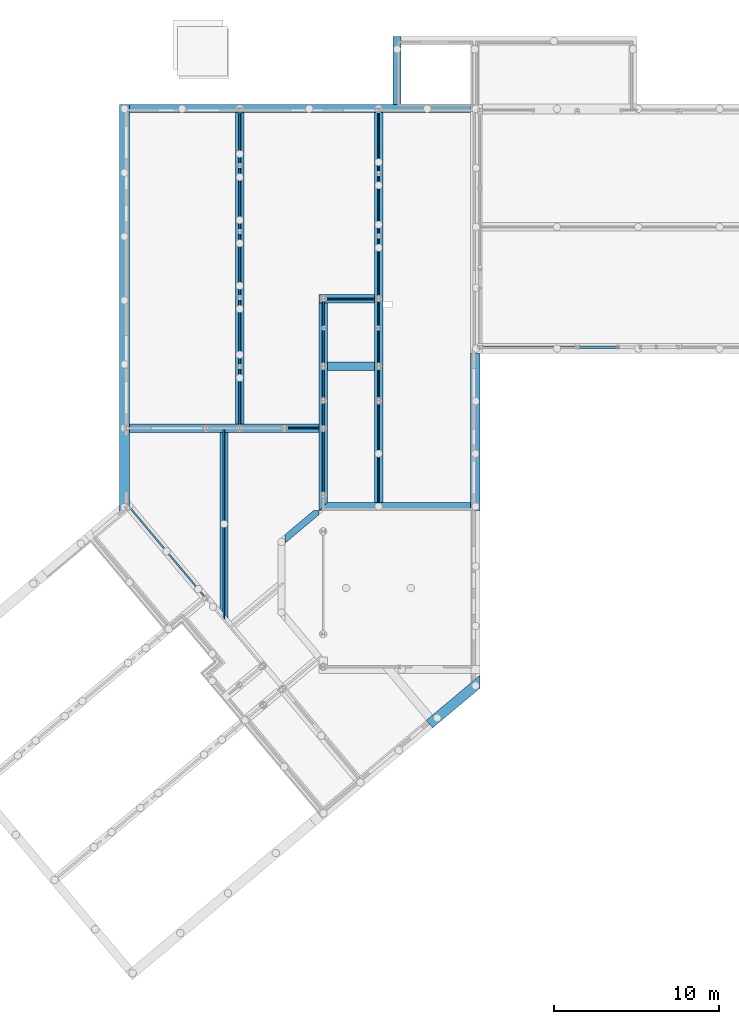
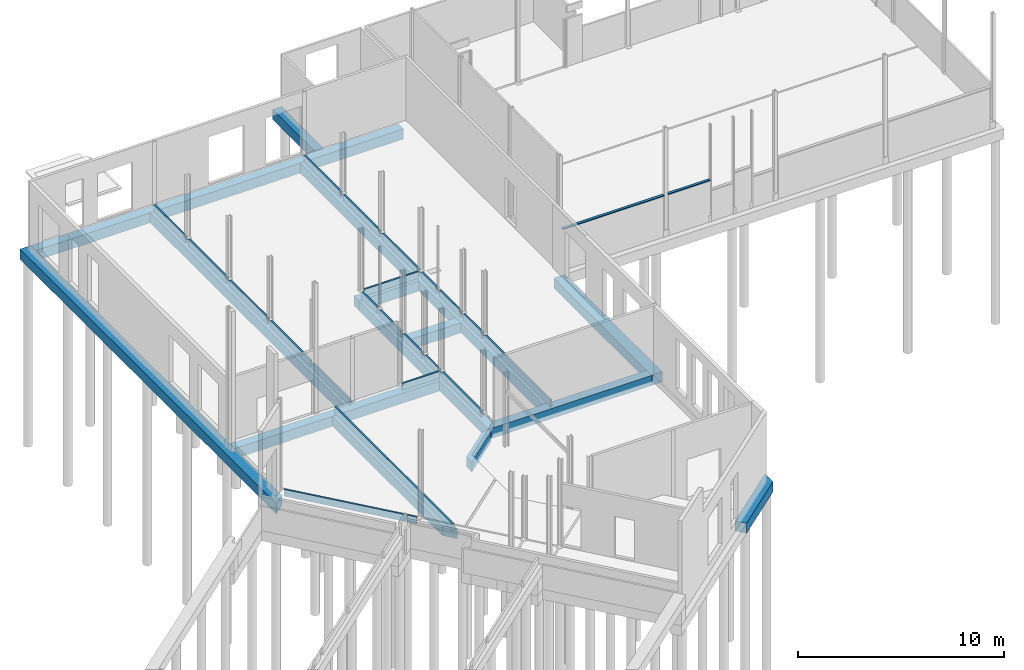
# One storey, part 12 of 18: 37 beams.
"""IFC2X3 building model written with IfcOpenShell, lengths in millimetres."""

from ifc_helpers import new_model, entity, si_unit, converted_unit, derived_unit, direction, frame, frame_2d, origin, origin_2d_with_axis, place, context, subcontext, project, spatial, polyline, circle_curve, parameter, trimmed, segment, composite_curve, rectangle, outline, extrude, clip, halfspace, material, type_object, element, save


model = new_model("IFC2X3")

# Units and contexts
model_context = context("Model", 3, precision=0.01, world=origin(), true_north=direction((6.12303176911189e-17, 1.0)))
body_context = subcontext(model_context, "Body", "Model", "MODEL_VIEW")
ifc_project = project(units=[si_unit("LENGTHUNIT", "METRE", prefix="MILLI"), si_unit("AREAUNIT", "SQUARE_METRE"), si_unit("VOLUMEUNIT", "CUBIC_METRE"), converted_unit("PLANEANGLEUNIT", "DEGREE", entity("IfcRatioMeasure", 0.0174532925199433), si_unit("PLANEANGLEUNIT", "RADIAN"), dimensions=[0, 0, 0, 0, 0, 0, 0]), si_unit("MASSUNIT", "GRAM", prefix="KILO"), derived_unit("MASSDENSITYUNIT", [(si_unit("MASSUNIT", "GRAM", prefix="KILO"), 1), (si_unit("LENGTHUNIT", "METRE"), -3)]), derived_unit("MOMENTOFINERTIAUNIT", [(si_unit("LENGTHUNIT", "METRE"), 4)]), si_unit("TIMEUNIT", "SECOND"), si_unit("FREQUENCYUNIT", "HERTZ"), si_unit("THERMODYNAMICTEMPERATUREUNIT", "DEGREE_CELSIUS"), derived_unit("THERMALTRANSMITTANCEUNIT", [(si_unit("MASSUNIT", "GRAM", prefix="KILO"), 1), (si_unit("THERMODYNAMICTEMPERATUREUNIT", "KELVIN"), -1), (si_unit("TIMEUNIT", "SECOND"), -3)]), derived_unit("VOLUMETRICFLOWRATEUNIT", [(si_unit("LENGTHUNIT", "METRE"), 3), (si_unit("TIMEUNIT", "SECOND"), -1)]), si_unit("ELECTRICCURRENTUNIT", "AMPERE"), si_unit("ELECTRICVOLTAGEUNIT", "VOLT"), si_unit("POWERUNIT", "WATT"), si_unit("FORCEUNIT", "NEWTON", prefix="KILO"), si_unit("ILLUMINANCEUNIT", "LUX"), si_unit("LUMINOUSFLUXUNIT", "LUMEN"), si_unit("LUMINOUSINTENSITYUNIT", "CANDELA"), derived_unit("USERDEFINED", [(si_unit("MASSUNIT", "GRAM", prefix="KILO"), -1), (si_unit("LENGTHUNIT", "METRE"), -2), (si_unit("TIMEUNIT", "SECOND"), 3), (si_unit("LUMINOUSFLUXUNIT", "LUMEN"), 1)]), derived_unit("LINEARVELOCITYUNIT", [(si_unit("LENGTHUNIT", "METRE"), 1), (si_unit("TIMEUNIT", "SECOND"), -1)]), si_unit("PRESSUREUNIT", "PASCAL"), derived_unit("USERDEFINED", [(si_unit("LENGTHUNIT", "METRE"), -2), (si_unit("MASSUNIT", "GRAM", prefix="KILO"), 1), (si_unit("TIMEUNIT", "SECOND"), -2)]), derived_unit("LINEARFORCEUNIT", [(si_unit("MASSUNIT", "GRAM", prefix="KILO"), 1), (si_unit("LENGTHUNIT", "METRE"), 1), (si_unit("TIMEUNIT", "SECOND"), -2), (si_unit("LENGTHUNIT", "METRE"), -1)]), derived_unit("PLANARFORCEUNIT", [(si_unit("MASSUNIT", "GRAM", prefix="KILO"), 1), (si_unit("LENGTHUNIT", "METRE"), 1), (si_unit("TIMEUNIT", "SECOND"), -2), (si_unit("LENGTHUNIT", "METRE"), -2)])], contexts=[model_context])

# Site, building, storey
site_placement = place(None, origin())
site = spatial("IfcSite", under=ifc_project, at=site_placement, Name="Default", CompositionType="ELEMENT")
building_placement = place(site_placement, origin())
building = spatial("IfcBuilding", under=site, at=building_placement, CompositionType="ELEMENT")
storey_placement = place(building_placement, frame((0.0, 0.0, -1085.0)))
storey = spatial("IfcBuildingStorey", under=building, at=storey_placement, Name="-00 fundatie", CompositionType="ELEMENT", Elevation=-1085.0)

# Beams
ifc_material_1 = material(Name="f2_beton ihwg")
beam_type_1 = type_object("IfcBeamType", Name="BERSnl_28_SF_LIB_balk vierkant beton_gen_ISR:balk vierkant_gen_600X600", PredefinedType="JOIST")
beam_1_placement = place(storey_placement, frame((13609.4349765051, 11165.9488747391, 600.0), z_axis=(0.0, 0.0, 1.0), x_axis=(0.0, 1.0, 0.0)))
element("IfcBeam", 1, at=beam_1_placement, inside=storey, type_object=beam_type_1, material=ifc_material_1, Name="BERSnl_28_SF_LIB_balk vierkant beton_gen_ISR:balk vierkant_gen_600X600", ObjectType="BERSnl_28_SF_LIB_balk vierkant beton_gen_ISR:balk vierkant_gen_600X600", context=body_context, shape_type="SweptSolid", body=[
    clip(extrude(rectangle(XDim=600.000000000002, YDim=599.999999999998, at=frame_2d((-4.2632564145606e-13, 0.0), x_axis=(1.0, 0.0))), frame((-277.36405469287, 0.0, -300.0), z_axis=(1.0, 0.0, 0.0), x_axis=(0.0, 0.0, -1.0)), (0.0, 0.0, 1.0), 24877.3640546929), halfspace(frame((-290.135520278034, 315.22043999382, 548.528137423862), z_axis=(-0.76604444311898, -0.642787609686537, 0.0), x_axis=(0.642787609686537, -0.76604444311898, 0.0)), False)),
])
beam_2_placement = place(storey_placement, frame((34813.4270571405, 11692.2966282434, 600.0), z_axis=(0.0, 0.0, 1.0), x_axis=(0.0, 1.0, 0.0)))
element("IfcBeam", 2, at=beam_2_placement, inside=storey, type_object=beam_type_1, material=ifc_material_1, Name="BERSnl_28_SF_LIB_balk vierkant beton_gen_ISR:balk vierkant_gen_600X600", ObjectType="BERSnl_28_SF_LIB_balk vierkant beton_gen_ISR:balk vierkant_gen_600X600", context=body_context, shape_type="SweptSolid", body=[
    extrude(rectangle(XDim=600.000000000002, YDim=599.999999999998, at=frame_2d((-2.55795384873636e-13, 2.1600499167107e-12), x_axis=(1.0, 0.0))), frame((-500.0, 0.0, -300.0), z_axis=(1.0, 0.0, 0.0), x_axis=(0.0, 0.0, -1.0)), (0.0, 0.0, 1.0), 9504.0),
])
beam_3_placement = place(storey_placement, frame((32429.2332137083, -1395.33770940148, 600.0), z_axis=(0.0, 0.0, 1.0), x_axis=(0.76604444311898, 0.642787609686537, 0.0)))
element("IfcBeam", 3, at=beam_3_placement, inside=storey, type_object=beam_type_1, material=ifc_material_1, Name="BERSnl_28_SF_LIB_balk vierkant beton_gen_ISR:balk vierkant_gen_600X600", ObjectType="BERSnl_28_SF_LIB_balk vierkant beton_gen_ISR:balk vierkant_gen_600X600", context=body_context, shape_type="SweptSolid", body=[
    clip(extrude(rectangle(XDim=600.000000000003, YDim=600.000000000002, at=origin_2d_with_axis()), frame((-500.0, 0.0, -300.0), z_axis=(1.0, 0.0, 0.0), x_axis=(0.0, 0.0, -1.0)), (0.0, 0.0, 1.0), 4255.69609855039), halfspace(frame((2968.83099965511, -637.749308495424, -600.0), z_axis=(0.76604444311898, -0.642787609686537, 0.0), x_axis=(0.642787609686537, 0.76604444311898, 0.0)), False)),
])
beam_type_2 = type_object("IfcBeamType", Name="BERSnl_28_SF_LIB_balk vierkant beton_gen_ISR:balk vierkant_gen_500X600", PredefinedType="JOIST")
beam_4_placement = place(storey_placement, frame((13609.4349765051, 35515.9488747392, 600.0)))
element("IfcBeam", 4, at=beam_4_placement, inside=storey, type_object=beam_type_2, material=ifc_material_1, Name="BERSnl_28_SF_LIB_balk vierkant beton_gen_ISR:balk vierkant_gen_500X600", ObjectType="BERSnl_28_SF_LIB_balk vierkant beton_gen_ISR:balk vierkant_gen_500X600", context=body_context, shape_type="SweptSolid", body=[
    extrude(rectangle(XDim=600.000000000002, YDim=499.999999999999, at=frame_2d((-2.8421709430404e-14, 5.84776671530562e-11), x_axis=(1.0, 0.0))), frame((300.0, 0.0, -300.0), z_axis=(1.0, 0.0, 0.0), x_axis=(0.0, 0.0, -1.0)), (0.0, 0.0, 1.0), 20603.9920806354),
])
beam_5_placement = place(storey_placement, frame((20567.4349765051, 16182.2966282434, 600.0), z_axis=(0.0, 0.0, 1.0), x_axis=(0.0, 1.0, 0.0)))
element("IfcBeam", 5, at=beam_5_placement, inside=storey, type_object=beam_type_2, material=ifc_material_1, Name="BERSnl_28_SF_LIB_balk vierkant beton_gen_ISR:balk vierkant_gen_500X600", ObjectType="BERSnl_28_SF_LIB_balk vierkant beton_gen_ISR:balk vierkant_gen_500X600", context=body_context, shape_type="SweptSolid", body=[
    extrude(rectangle(XDim=600.000000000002, YDim=499.999999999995, at=frame_2d((-1.4210854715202e-13, -2.17426077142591e-12), x_axis=(1.0, 0.0))), frame((250.0, 0.0, -300.0), z_axis=(1.0, 0.0, 0.0), x_axis=(0.0, 0.0, -1.0)), (0.0, 0.0, 1.0), 18833.6522464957),
])
beam_6_placement = place(storey_placement, frame((13609.4349765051, 16182.2966282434, 600.0)))
element("IfcBeam", 6, at=beam_6_placement, inside=storey, type_object=beam_type_2, material=ifc_material_1, Name="BERSnl_28_SF_LIB_balk vierkant beton_gen_ISR:balk vierkant_gen_500X600", ObjectType="BERSnl_28_SF_LIB_balk vierkant beton_gen_ISR:balk vierkant_gen_500X600", context=body_context, shape_type="SweptSolid", body=[
    extrude(rectangle(XDim=600.000000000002, YDim=499.999999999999, at=frame_2d((-2.8421709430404e-14, 3.68203245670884e-11), x_axis=(1.0, 0.0))), frame((300.0, 0.0, -300.0), z_axis=(1.0, 0.0, 0.0), x_axis=(0.0, 0.0, -1.0)), (0.0, 0.0, 1.0), 11456.0),
])
beam_7_placement = place(storey_placement, frame((28969.4349765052, 11442.2966282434, 600.0), z_axis=(0.0, 0.0, 1.0), x_axis=(0.0, 1.0, 0.0)))
element("IfcBeam", 7, at=beam_7_placement, inside=storey, type_object=beam_type_2, material=ifc_material_1, Name="BERSnl_28_SF_LIB_balk vierkant beton_gen_ISR:balk vierkant_gen_500X600", ObjectType="BERSnl_28_SF_LIB_balk vierkant beton_gen_ISR:balk vierkant_gen_500X600", context=body_context, shape_type="SweptSolid", body=[
    extrude(rectangle(XDim=600.000000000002, YDim=499.999999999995, at=frame_2d((-4.57589521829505e-12, -2.17426077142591e-12), x_axis=(1.0, 0.0))), frame((250.0, 0.0, -300.0), z_axis=(1.0, 0.0, 0.0), x_axis=(0.0, 0.0, -1.0)), (0.0, 0.0, 1.0), 23573.6522464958),
])
beam_8_placement = place(storey_placement, frame((28969.4349765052, 24002.2966282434, 600.0), z_axis=(0.0, 0.0, 1.0), x_axis=(-1.0, 0.0, 0.0)))
element("IfcBeam", 8, at=beam_8_placement, inside=storey, type_object=beam_type_2, material=ifc_material_1, Name="BERSnl_28_SF_LIB_balk vierkant beton_gen_ISR:balk vierkant_gen_500X600", ObjectType="BERSnl_28_SF_LIB_balk vierkant beton_gen_ISR:balk vierkant_gen_500X600", context=body_context, shape_type="SweptSolid", body=[
    extrude(rectangle(XDim=600.000000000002, YDim=499.999999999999, at=frame_2d((0.0, 1.29887212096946e-11), x_axis=(1.0, 0.0))), frame((250.0, 0.0, -300.0), z_axis=(1.0, 0.0, 0.0), x_axis=(0.0, 0.0, -1.0)), (0.0, 0.0, 1.0), 3354.00000000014),
])
beam_9_placement = place(storey_placement, frame((25615.4349765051, 11692.2966282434, 600.0), z_axis=(0.0, 0.0, 1.0), x_axis=(0.0, 1.0, 0.0)))
element("IfcBeam", 9, at=beam_9_placement, inside=storey, type_object=beam_type_2, material=ifc_material_1, Name="BERSnl_28_SF_LIB_balk vierkant beton_gen_ISR:balk vierkant_gen_500X600", ObjectType="BERSnl_28_SF_LIB_balk vierkant beton_gen_ISR:balk vierkant_gen_500X600", context=body_context, shape_type="SweptSolid", body=[
    clip(extrude(rectangle(XDim=600.000000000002, YDim=499.999999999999, at=frame_2d((1.02318153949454e-12, 0.0), x_axis=(1.0, 0.0))), frame((-500.0, 0.0, -300.0), z_axis=(1.0, 0.0, 0.0), x_axis=(0.0, 0.0, -1.0)), (0.0, 0.0, 1.0), 12560.0), halfspace(frame((0.0, -250.0, 0.0), z_axis=(-0.707106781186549, -0.707106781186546, 0.0), x_axis=(0.707106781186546, -0.707106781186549, 0.0)), False)),
])
beam_10_placement = place(storey_placement, frame((25615.4349765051, 19921.8399254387, 600.0)))
element("IfcBeam", 10, at=beam_10_placement, inside=storey, type_object=beam_type_2, material=ifc_material_1, Name="BERSnl_28_SF_LIB_balk vierkant beton_gen_ISR:balk vierkant_gen_500X600", ObjectType="BERSnl_28_SF_LIB_balk vierkant beton_gen_ISR:balk vierkant_gen_500X600", context=body_context, shape_type="SweptSolid", body=[
    extrude(rectangle(XDim=600.000000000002, YDim=499.999999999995, at=frame_2d((0.0, 2.1600499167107e-12), x_axis=(1.0, 0.0))), frame((250.0, 0.0, -300.0), z_axis=(1.0, 0.0, 0.0), x_axis=(0.0, 0.0, -1.0)), (0.0, 0.0, 1.0), 2854.0000000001),
])
beam_11_placement = place(storey_placement, frame((30085.4349765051, 35515.9488747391, 600.0), z_axis=(0.0, 0.0, 1.0), x_axis=(0.0, 1.0, 0.0)))
element("IfcBeam", 11, at=beam_11_placement, inside=storey, type_object=beam_type_2, material=ifc_material_1, Name="BERSnl_28_SF_LIB_balk vierkant beton_gen_ISR:balk vierkant_gen_500X600", ObjectType="BERSnl_28_SF_LIB_balk vierkant beton_gen_ISR:balk vierkant_gen_500X600", context=body_context, shape_type="SweptSolid", body=[
    extrude(rectangle(XDim=600.000000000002, YDim=499.999999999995, at=frame_2d((1.4210854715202e-13, -2.17426077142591e-12), x_axis=(1.0, 0.0))), frame((250.0, 0.0, -300.0), z_axis=(1.0, 0.0, 0.0), x_axis=(0.0, 0.0, -1.0)), (0.0, 0.0, 1.0), 4100.34775350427),
])
beam_12_placement = place(storey_placement, frame((25865.4349765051, 11442.2966282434, 600.0)))
element("IfcBeam", 12, at=beam_12_placement, inside=storey, type_object=beam_type_2, material=ifc_material_1, Name="BERSnl_28_SF_LIB_balk vierkant beton_gen_ISR:balk vierkant_gen_500X600", ObjectType="BERSnl_28_SF_LIB_balk vierkant beton_gen_ISR:balk vierkant_gen_500X600", context=body_context, shape_type="SweptSolid", body=[
    clip(extrude(rectangle(XDim=600.000000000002, YDim=499.999999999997, at=frame_2d((1.13686837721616e-13, 3.24860138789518e-11), x_axis=(1.0, 0.0))), frame((-500.0, 0.0, -300.0), z_axis=(1.0, 0.0, 0.0), x_axis=(0.0, 0.0, -1.0)), (0.0, 0.0, 1.0), 9147.9920806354), halfspace(frame((0.0, 250.0, 0.0), z_axis=(-0.707106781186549, 0.707106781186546, 0.0), x_axis=(0.707106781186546, 0.707106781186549, 0.0)), False)),
])
beam_13_placement = place(storey_placement, frame((19619.4349765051, 4582.60377274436, 600.0), z_axis=(0.0, 0.0, 1.0), x_axis=(0.0, 1.0, 0.0)))
element("IfcBeam", 13, at=beam_13_placement, inside=storey, type_object=beam_type_2, material=ifc_material_1, Name="BERSnl_28_SF_LIB_balk vierkant beton_gen_ISR:balk vierkant_gen_500X600", ObjectType="BERSnl_28_SF_LIB_balk vierkant beton_gen_ISR:balk vierkant_gen_500X600", context=body_context, shape_type="SweptSolid", body=[
    clip(extrude(rectangle(XDim=600.000000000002, YDim=500.000000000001, at=frame_2d((2.27373675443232e-13, 1.08002495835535e-12), x_axis=(1.0, 0.0))), frame((90.9925585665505, 0.0, -300.0), z_axis=(1.0, 0.0, 0.0), x_axis=(0.0, 0.0, -1.0)), (0.0, 0.0, 1.0), 11258.7002969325), halfspace(frame((-9415.35537283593, -8226.77304308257, -600.0), z_axis=(-0.642787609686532, 0.766044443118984, 0.0), x_axis=(0.766044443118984, 0.642787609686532, 0.0)), False)),
])
beam_type_3 = type_object("IfcBeamType", Name="BERSnl_28_SF_LIB_balk vierkant beton_gen_ISR:balk vierkant_gen_400x600", PredefinedType="JOIST")
beam_14_placement = place(storey_placement, frame((23090.4349765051, 9303.0220841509, 600.0), z_axis=(0.0, 0.0, 1.0), x_axis=(0.766044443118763, 0.642787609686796, 0.0)))
element("IfcBeam", 14, at=beam_14_placement, inside=storey, type_object=beam_type_3, material=ifc_material_1, Name="BERSnl_28_SF_LIB_balk vierkant beton_gen_ISR:balk vierkant_gen_400x600", ObjectType="BERSnl_28_SF_LIB_balk vierkant beton_gen_ISR:balk vierkant_gen_400x600", context=body_context, shape_type="SweptSolid", body=[
    clip(clip(clip(extrude(rectangle(XDim=600.000000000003, YDim=399.999999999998, at=frame_2d((-2.8421709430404e-14, 3.97903932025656e-13), x_axis=(1.0, 0.0))), frame((93.2615316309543, 0.0, -300.0), z_axis=(1.0, 0.0, 0.0), x_axis=(0.0, 0.0, -1.0)), (0.0, 0.0, 1.0), 3026.73846836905), halfspace(frame((-2527.58871241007, -3323.40769398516, -600.0), z_axis=(-0.766044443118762, 0.642787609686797, 0.0), x_axis=(0.642787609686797, 0.766044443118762, 0.0)), False)), halfspace(frame((3349.90436278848, -344.63075388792, -600.0), z_axis=(0.642787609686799, 0.76604444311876, 0.0), x_axis=(0.76604444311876, -0.642787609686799, 0.0)), False)), halfspace(frame((3500.53587050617, 632.504493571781, 0.0), z_axis=(0.766044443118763, -0.642787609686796, 0.0), x_axis=(0.642787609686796, 0.766044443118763, 0.0)), False)),
])
ifc_material_2 = material(Name="00_Staal_generiek")
beam_type_4 = type_object("IfcBeamType", Name="BERSnl_28_SF_LIB_balk unp_gen_ISR:balk_gen_UNP140", PredefinedType="BEAM")
beam_15_placement = place(storey_placement, frame((43301.5254640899, 21136.2966282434, 3074.49999999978), z_axis=(0.0, 0.0, 1.0), x_axis=(-1.0, 0.0, 0.0)))
element("IfcBeam", 15, at=beam_15_placement, inside=storey, type_object=beam_type_4, material=ifc_material_2, Name="BERSnl_28_SF_LIB_balk unp_gen_ISR:balk_gen_UNP140", ObjectType="BERSnl_28_SF_LIB_balk unp_gen_ISR:balk_gen_UNP140", context=body_context, shape_type="SweptSolid", body=[
    extrude(outline(composite_curve([segment(polyline([(-33.1001241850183, -70.0), (26.8998758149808, -70.0)]), True, "CONTINUOUS"), segment(polyline([(26.8998758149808, -70.0), (26.899875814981, -66.7383127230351)]), True, "CONTINUOUS"), segment(trimmed(circle_curve(frame_2d((21.8998758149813, -66.7383127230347), x_axis=(1.0, 0.0)), 4.99999999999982), [parameter(0.0)], [parameter(85.4200000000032)], True, "PARAMETER"), True, "CONTINUOUS"), segment(polyline([(22.2991307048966, -61.7542786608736), (-16.8986339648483, -58.6142721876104)]), True, "CONTINUOUS"), segment(trimmed(circle_curve(frame_2d((-16.1001241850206, -48.6462040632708), x_axis=(-0.0798509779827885, -0.996806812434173)), 9.99999999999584), [parameter(274.579999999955)], [parameter(0.0)], True, "PARAMETER"), False, "CONTINUOUS"), segment(polyline([(-26.100124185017, -48.64620406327), (-26.1001241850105, 48.6462040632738)]), True, "CONTINUOUS"), segment(trimmed(circle_curve(frame_2d((-16.1001241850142, 48.6462040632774), x_axis=(-1.0, 0.0)), 9.99999999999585), [parameter(274.579999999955)], [parameter(0.0)], True, "PARAMETER"), False, "CONTINUOUS"), segment(polyline([(-16.8986339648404, 58.6142721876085), (22.299130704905, 61.7542786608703)]), True, "CONTINUOUS"), segment(trimmed(circle_curve(frame_2d((21.8998758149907, 66.7383127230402), x_axis=(0.0798509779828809, -0.996806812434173)), 4.9999999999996), [parameter(0.0)], [parameter(85.4200000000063)], True, "PARAMETER"), True, "CONTINUOUS"), segment(polyline([(26.8998758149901, 66.7383127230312), (26.8998758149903, 70.0)]), True, "CONTINUOUS"), segment(polyline([(26.8998758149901, 70.0), (-33.100124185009, 70.0)]), True, "CONTINUOUS"), segment(polyline([(-33.100124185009, 70.0), (-33.1001241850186, -70.0)]), True, "CONTINUOUS")], self_intersect=False)), frame((-171.901593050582, 70.0, -15.6001241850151), z_axis=(1.0, 0.0, 0.0), x_axis=(0.0, 0.0, -1.0)), (0.0, 0.0, 1.0), 2400.00000000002),
])
beam_16_placement = place(storey_placement, frame((38665.328650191, 21136.2966282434, 3074.49999999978)))
element("IfcBeam", 16, at=beam_16_placement, inside=storey, type_object=beam_type_4, material=ifc_material_2, Name="BERSnl_28_SF_LIB_balk unp_gen_ISR:balk_gen_UNP140", ObjectType="BERSnl_28_SF_LIB_balk unp_gen_ISR:balk_gen_UNP140", context=body_context, shape_type="SweptSolid", body=[
    extrude(outline(composite_curve([segment(polyline([(-33.100124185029, -70.0), (26.8998758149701, -70.0)]), True, "CONTINUOUS"), segment(polyline([(26.8998758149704, -70.0), (26.8998758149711, -66.738312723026)]), True, "CONTINUOUS"), segment(trimmed(circle_curve(frame_2d((21.8998758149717, -66.7383127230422), x_axis=(1.0, 0.0)), 4.9999999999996), [parameter(0.0)], [parameter(85.4200000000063)], True, "PARAMETER"), True, "CONTINUOUS"), segment(polyline([(22.2991307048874, -61.7542786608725), (-16.898633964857, -58.6142721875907)]), True, "CONTINUOUS"), segment(trimmed(circle_curve(frame_2d((-16.1001241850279, -48.6462040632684), x_axis=(-0.0798509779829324, -0.996806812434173)), 9.99999999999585), [parameter(274.579999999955)], [parameter(0.0)], True, "PARAMETER"), False, "CONTINUOUS"), segment(polyline([(-26.1001241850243, -48.6462040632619), (-26.1001241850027, 48.6462040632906)]), True, "CONTINUOUS"), segment(trimmed(circle_curve(frame_2d((-16.1001241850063, 48.6462040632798), x_axis=(-1.0, 0.0)), 9.99999999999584), [parameter(274.579999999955)], [parameter(0.0)], True, "PARAMETER"), False, "CONTINUOUS"), segment(polyline([(-16.8986339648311, 58.6142721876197), (22.2991307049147, 61.7542786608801)]), True, "CONTINUOUS"), segment(trimmed(circle_curve(frame_2d((21.8998758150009, 66.7383127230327), x_axis=(0.0798509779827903, -0.996806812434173)), 4.99999999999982), [parameter(0.0)], [parameter(85.4200000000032)], True, "PARAMETER"), True, "CONTINUOUS"), segment(polyline([(26.8998758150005, 66.7383127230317), (26.8998758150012, 70.0)]), True, "CONTINUOUS"), segment(polyline([(26.8998758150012, 70.0), (-33.1001241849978, 70.0)]), True, "CONTINUOUS"), segment(polyline([(-33.1001241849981, 70.0), (-33.100124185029, -70.0)]), True, "CONTINUOUS")], self_intersect=False)), frame((-3485.90159305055, -70.0, -15.6001241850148), z_axis=(1.0, 0.0, 0.0), x_axis=(0.0, 0.0, -1.0)), (0.0, 0.0, 1.0), 5713.99999999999),
])
beam_type_5 = type_object("IfcBeamType", Name="BERSnl_28_SF_LIB_balk vierkant beton_gen_ISR:balk vierkant 100x395", PredefinedType="JOIST")
beam_17_placement = place(storey_placement, frame((20569.4349765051, 35268.1083475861, 995.0), z_axis=(0.0, 0.0, 1.0), x_axis=(0.0, -1.0, 0.0)))
element("IfcBeam", 17, at=beam_17_placement, inside=storey, type_object=beam_type_5, material=ifc_material_1, Name="BERSnl_28_SF_LIB_balk vierkant beton_gen_ISR:balk vierkant 100x395", ObjectType="BERSnl_28_SF_LIB_balk vierkant beton_gen_ISR:balk vierkant 100x395", context=body_context, shape_type="SweptSolid", body=[
    extrude(rectangle(XDim=395.000000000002, YDim=99.9999999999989, at=frame_2d((1.84741111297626e-13, -2.16715534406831e-12), x_axis=(1.0, 0.0))), frame((2.15947284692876, 0.0, -197.500000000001), z_axis=(1.0, 0.0, 0.0), x_axis=(0.0, 0.0, -1.0)), (0.0, 0.0, 1.0), 3047.84052715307),
])
beam_18_placement = place(storey_placement, frame((20569.4349765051, 31917.2966282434, 995.0), z_axis=(0.0, 0.0, 1.0), x_axis=(0.0, -1.0, 0.0)))
element("IfcBeam", 18, at=beam_18_placement, inside=storey, type_object=beam_type_5, material=ifc_material_1, Name="BERSnl_28_SF_LIB_balk vierkant beton_gen_ISR:balk vierkant 100x395", ObjectType="BERSnl_28_SF_LIB_balk vierkant beton_gen_ISR:balk vierkant 100x395", context=body_context, shape_type="SweptSolid", body=[
    extrude(rectangle(XDim=395.000000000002, YDim=99.9999999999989, at=frame_2d((2.70006239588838e-13, -2.16715534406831e-12), x_axis=(1.0, 0.0))), frame((0.0, 0.0, -197.500000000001), z_axis=(1.0, 0.0, 0.0), x_axis=(0.0, 0.0, -1.0)), (0.0, 0.0, 1.0), 3700.0),
])
beam_19_placement = place(storey_placement, frame((20569.4349765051, 27917.2966282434, 995.0), z_axis=(0.0, 0.0, 1.0), x_axis=(0.0, -1.0, 0.0)))
element("IfcBeam", 19, at=beam_19_placement, inside=storey, type_object=beam_type_5, material=ifc_material_1, Name="BERSnl_28_SF_LIB_balk vierkant beton_gen_ISR:balk vierkant 100x395", ObjectType="BERSnl_28_SF_LIB_balk vierkant beton_gen_ISR:balk vierkant 100x395", context=body_context, shape_type="SweptSolid", body=[
    extrude(rectangle(XDim=395.000000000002, YDim=99.9999999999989, at=frame_2d((2.55795384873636e-13, 2.16715534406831e-12), x_axis=(1.0, 0.0))), frame((0.0, 0.0, -197.500000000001), z_axis=(1.0, 0.0, 0.0), x_axis=(0.0, 0.0, -1.0)), (0.0, 0.0, 1.0), 3670.0),
])
beam_20_placement = place(storey_placement, frame((20569.4349765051, 23947.2966282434, 995.0), z_axis=(0.0, 0.0, 1.0), x_axis=(0.0, -1.0, 0.0)))
element("IfcBeam", 20, at=beam_20_placement, inside=storey, type_object=beam_type_5, material=ifc_material_1, Name="BERSnl_28_SF_LIB_balk vierkant beton_gen_ISR:balk vierkant 100x395", ObjectType="BERSnl_28_SF_LIB_balk vierkant beton_gen_ISR:balk vierkant 100x395", context=body_context, shape_type="SweptSolid", body=[
    extrude(rectangle(XDim=395.000000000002, YDim=99.9999999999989, at=frame_2d((2.8421709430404e-13, -2.16715534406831e-12), x_axis=(1.0, 0.0))), frame((0.0, 0.0, -197.500000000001), z_axis=(1.0, 0.0, 0.0), x_axis=(0.0, 0.0, -1.0)), (0.0, 0.0, 1.0), 3875.45670280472),
])
beam_21_placement = place(storey_placement, frame((20569.4349765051, 19771.8399254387, 995.0), z_axis=(0.0, 0.0, 1.0), x_axis=(0.0, -1.0, 0.0)))
element("IfcBeam", 21, at=beam_21_placement, inside=storey, type_object=beam_type_5, material=ifc_material_1, Name="BERSnl_28_SF_LIB_balk vierkant beton_gen_ISR:balk vierkant 100x395", ObjectType="BERSnl_28_SF_LIB_balk vierkant beton_gen_ISR:balk vierkant 100x395", context=body_context, shape_type="SweptSolid", body=[
    extrude(rectangle(XDim=395.000000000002, YDim=99.9999999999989, at=frame_2d((2.41584530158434e-13, -2.16715534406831e-12), x_axis=(1.0, 0.0))), frame((0.0, 0.0, -197.500000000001), z_axis=(1.0, 0.0, 0.0), x_axis=(0.0, 0.0, -1.0)), (0.0, 0.0, 1.0), 3439.54329719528),
])
beam_22_placement = place(storey_placement, frame((28969.4349765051, 35252.2966282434, 995.0), z_axis=(0.0, 0.0, 1.0), x_axis=(0.0, -1.0, 0.0)))
element("IfcBeam", 22, at=beam_22_placement, inside=storey, type_object=beam_type_5, material=ifc_material_1, Name="BERSnl_28_SF_LIB_balk vierkant beton_gen_ISR:balk vierkant 100x395", ObjectType="BERSnl_28_SF_LIB_balk vierkant beton_gen_ISR:balk vierkant 100x395", context=body_context, shape_type="SweptSolid", body=[
    extrude(rectangle(XDim=395.000000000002, YDim=99.9999999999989, at=frame_2d((2.1316282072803e-13, 2.16715534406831e-12), x_axis=(1.0, 0.0))), frame((0.0, 0.0, -197.500000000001), z_axis=(1.0, 0.0, 0.0), x_axis=(0.0, 0.0, -1.0)), (0.0, 0.0, 1.0), 3530.0),
])
beam_23_placement = place(storey_placement, frame((28969.4349765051, 31472.2966282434, 995.0), z_axis=(0.0, 0.0, 1.0), x_axis=(0.0, -1.0, 0.0)))
element("IfcBeam", 23, at=beam_23_placement, inside=storey, type_object=beam_type_5, material=ifc_material_1, Name="BERSnl_28_SF_LIB_balk vierkant beton_gen_ISR:balk vierkant 100x395", ObjectType="BERSnl_28_SF_LIB_balk vierkant beton_gen_ISR:balk vierkant 100x395", context=body_context, shape_type="SweptSolid", body=[
    extrude(rectangle(XDim=395.000000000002, YDim=99.9999999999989, at=frame_2d((2.8421709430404e-13, 2.16715534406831e-12), x_axis=(1.0, 0.0))), frame((50.0, 0.0, -197.500000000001), z_axis=(1.0, 0.0, 0.0), x_axis=(0.0, 0.0, -1.0)), (0.0, 0.0, 1.0), 3480.0),
])
beam_24_placement = place(storey_placement, frame((28969.4349765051, 27982.2966282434, 995.0), z_axis=(0.0, 0.0, 1.0), x_axis=(0.0, -1.0, 0.0)))
element("IfcBeam", 24, at=beam_24_placement, inside=storey, type_object=beam_type_5, material=ifc_material_1, Name="BERSnl_28_SF_LIB_balk vierkant beton_gen_ISR:balk vierkant 100x395", ObjectType="BERSnl_28_SF_LIB_balk vierkant beton_gen_ISR:balk vierkant 100x395", context=body_context, shape_type="SweptSolid", body=[
    extrude(rectangle(XDim=395.000000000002, YDim=99.9999999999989, at=frame_2d((2.70006239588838e-13, 2.16715534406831e-12), x_axis=(1.0, 0.0))), frame((340.0, 0.0, -197.500000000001), z_axis=(1.0, 0.0, 0.0), x_axis=(0.0, 0.0, -1.0)), (0.0, 0.0, 1.0), 3490.0),
])
beam_25_placement = place(storey_placement, frame((28969.4349765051, 23867.2966282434, 995.0), z_axis=(0.0, 0.0, 1.0), x_axis=(0.0, -1.0, 0.0)))
element("IfcBeam", 25, at=beam_25_placement, inside=storey, type_object=beam_type_5, material=ifc_material_1, Name="BERSnl_28_SF_LIB_balk vierkant beton_gen_ISR:balk vierkant 100x395", ObjectType="BERSnl_28_SF_LIB_balk vierkant beton_gen_ISR:balk vierkant 100x395", context=body_context, shape_type="SweptSolid", body=[
    extrude(rectangle(XDim=395.000000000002, YDim=99.9999999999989, at=frame_2d((8.5265128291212e-14, -2.16715534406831e-12), x_axis=(1.0, 0.0))), frame((15.0, 0.0, -197.500000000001), z_axis=(1.0, 0.0, 0.0), x_axis=(0.0, 0.0, -1.0)), (0.0, 0.0, 1.0), 1464.99999999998),
])
beam_26_placement = place(storey_placement, frame((28969.4349765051, 22087.2966282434, 995.0), z_axis=(0.0, 0.0, 1.0), x_axis=(0.0, -1.0, 0.0)))
element("IfcBeam", 26, at=beam_26_placement, inside=storey, type_object=beam_type_5, material=ifc_material_1, Name="BERSnl_28_SF_LIB_balk vierkant beton_gen_ISR:balk vierkant 100x395", ObjectType="BERSnl_28_SF_LIB_balk vierkant beton_gen_ISR:balk vierkant 100x395", context=body_context, shape_type="SweptSolid", body=[
    extrude(rectangle(XDim=395.000000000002, YDim=99.9999999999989, at=frame_2d((1.4210854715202e-13, 2.16715534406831e-12), x_axis=(1.0, 0.0))), frame((0.0, 0.0, -197.500000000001), z_axis=(1.0, 0.0, 0.0), x_axis=(0.0, 0.0, -1.0)), (0.0, 0.0, 1.0), 2015.0),
])
beam_27_placement = place(storey_placement, frame((28969.4349765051, 20298.5697997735, 995.0), z_axis=(0.0, 0.0, 1.0), x_axis=(0.0, -1.0, 0.0)))
element("IfcBeam", 27, at=beam_27_placement, inside=storey, type_object=beam_type_5, material=ifc_material_1, Name="BERSnl_28_SF_LIB_balk vierkant beton_gen_ISR:balk vierkant 100x395", ObjectType="BERSnl_28_SF_LIB_balk vierkant beton_gen_ISR:balk vierkant 100x395", context=body_context, shape_type="SweptSolid", body=[
    extrude(rectangle(XDim=395.000000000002, YDim=99.9999999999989, at=frame_2d((1.13686837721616e-13, 4.33431068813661e-12), x_axis=(1.0, 0.0))), frame((526.273171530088, 0.0, -197.500000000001), z_axis=(1.0, 0.0, 0.0), x_axis=(0.0, 0.0, -1.0)), (0.0, 0.0, 1.0), 1788.72682846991),
])
beam_28_placement = place(storey_placement, frame((28969.4349765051, 17682.2966282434, 995.0), z_axis=(0.0, 0.0, 1.0), x_axis=(0.0, -1.0, 0.0)))
element("IfcBeam", 28, at=beam_28_placement, inside=storey, type_object=beam_type_5, material=ifc_material_1, Name="BERSnl_28_SF_LIB_balk vierkant beton_gen_ISR:balk vierkant 100x395", ObjectType="BERSnl_28_SF_LIB_balk vierkant beton_gen_ISR:balk vierkant 100x395", context=body_context, shape_type="SweptSolid", body=[
    extrude(rectangle(XDim=395.000000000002, YDim=99.9999999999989, at=frame_2d((4.40536496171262e-13, -2.16715534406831e-12), x_axis=(1.0, 0.0))), frame((0.0, 0.0, -197.500000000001), z_axis=(1.0, 0.0, 0.0), x_axis=(0.0, 0.0, -1.0)), (0.0, 0.0, 1.0), 6340.0),
])
beam_29_placement = place(storey_placement, frame((25763.8364297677, 24002.2966282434, 995.0)))
element("IfcBeam", 29, at=beam_29_placement, inside=storey, type_object=beam_type_5, material=ifc_material_1, Name="BERSnl_28_SF_LIB_balk vierkant beton_gen_ISR:balk vierkant 100x395", ObjectType="BERSnl_28_SF_LIB_balk vierkant beton_gen_ISR:balk vierkant 100x395", context=body_context, shape_type="SweptSolid", body=[
    extrude(rectangle(XDim=395.000000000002, YDim=99.9999999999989, at=frame_2d((8.5265128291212e-14, 2.38209452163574e-11), x_axis=(1.0, 0.0))), frame((1.59854673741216, 0.0, -197.500000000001), z_axis=(1.0, 0.0, 0.0), x_axis=(0.0, 0.0, -1.0)), (0.0, 0.0, 1.0), 3054.00000000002),
])
beam_30_placement = place(storey_placement, frame((25615.4349765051, 23867.2966282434, 995.0), z_axis=(0.0, 0.0, 1.0), x_axis=(0.0, -1.0, 0.0)))
element("IfcBeam", 30, at=beam_30_placement, inside=storey, type_object=beam_type_5, material=ifc_material_1, Name="BERSnl_28_SF_LIB_balk vierkant beton_gen_ISR:balk vierkant 100x395", ObjectType="BERSnl_28_SF_LIB_balk vierkant beton_gen_ISR:balk vierkant 100x395", context=body_context, shape_type="SweptSolid", body=[
    extrude(rectangle(XDim=395.000000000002, YDim=99.9999999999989, at=frame_2d((8.5265128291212e-14, -2.16715534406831e-12), x_axis=(1.0, 0.0))), frame((15.0, 0.0, -197.500000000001), z_axis=(1.0, 0.0, 0.0), x_axis=(0.0, 0.0, -1.0)), (0.0, 0.0, 1.0), 1464.99999999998),
])
beam_31_placement = place(storey_placement, frame((25615.4349765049, 22087.2966282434, 995.0), z_axis=(0.0, 0.0, 1.0), x_axis=(0.0, -1.0, 0.0)))
element("IfcBeam", 31, at=beam_31_placement, inside=storey, type_object=beam_type_5, material=ifc_material_1, Name="BERSnl_28_SF_LIB_balk vierkant beton_gen_ISR:balk vierkant 100x395", ObjectType="BERSnl_28_SF_LIB_balk vierkant beton_gen_ISR:balk vierkant 100x395", context=body_context, shape_type="SweptSolid", body=[
    extrude(rectangle(XDim=395.000000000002, YDim=99.9999999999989, at=frame_2d((1.70530256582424e-13, -2.16715534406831e-12), x_axis=(1.0, 0.0))), frame((0.0, 0.0, -197.500000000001), z_axis=(1.0, 0.0, 0.0), x_axis=(0.0, 0.0, -1.0)), (0.0, 0.0, 1.0), 2015.0),
])
beam_32_placement = place(storey_placement, frame((25615.4349765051, 20298.5697997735, 995.0), z_axis=(0.0, 0.0, 1.0), x_axis=(0.0, -1.0, 0.0)))
element("IfcBeam", 32, at=beam_32_placement, inside=storey, type_object=beam_type_5, material=ifc_material_1, Name="BERSnl_28_SF_LIB_balk vierkant beton_gen_ISR:balk vierkant 100x395", ObjectType="BERSnl_28_SF_LIB_balk vierkant beton_gen_ISR:balk vierkant 100x395", context=body_context, shape_type="SweptSolid", body=[
    extrude(rectangle(XDim=395.000000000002, YDim=99.9999999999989, at=frame_2d((1.13686837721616e-13, 4.33431068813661e-12), x_axis=(1.0, 0.0))), frame((526.273171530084, 0.0, -197.500000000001), z_axis=(1.0, 0.0, 0.0), x_axis=(0.0, 0.0, -1.0)), (0.0, 0.0, 1.0), 1788.72682846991),
])
beam_33_placement = place(storey_placement, frame((25615.4349765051, 18209.8429713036, 995.0), z_axis=(0.0, 0.0, 1.0), x_axis=(0.0, -1.0, 0.0)))
element("IfcBeam", 33, at=beam_33_placement, inside=storey, type_object=beam_type_5, material=ifc_material_1, Name="BERSnl_28_SF_LIB_balk vierkant beton_gen_ISR:balk vierkant 100x395", ObjectType="BERSnl_28_SF_LIB_balk vierkant beton_gen_ISR:balk vierkant 100x395", context=body_context, shape_type="SweptSolid", body=[
    extrude(rectangle(XDim=395.000000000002, YDim=99.9999999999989, at=frame_2d((7.105427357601e-14, 2.16715534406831e-12), x_axis=(1.0, 0.0))), frame((526.273171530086, 0.0, -197.500000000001), z_axis=(1.0, 0.0, 0.0), x_axis=(0.0, 0.0, -1.0)), (0.0, 0.0, 1.0), 1351.27317153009),
])
beam_34_placement = place(storey_placement, frame((25615.4349765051, 16031.6084646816, 995.0), z_axis=(0.0, 0.0, 1.0), x_axis=(0.0, -1.0, 0.0)))
element("IfcBeam", 34, at=beam_34_placement, inside=storey, type_object=beam_type_5, material=ifc_material_1, Name="BERSnl_28_SF_LIB_balk vierkant beton_gen_ISR:balk vierkant 100x395", ObjectType="BERSnl_28_SF_LIB_balk vierkant beton_gen_ISR:balk vierkant 100x395", context=body_context, shape_type="SweptSolid", body=[
    extrude(rectangle(XDim=395.000000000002, YDim=99.9999999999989, at=frame_2d((2.70006239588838e-13, -2.16715534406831e-12), x_axis=(1.0, 0.0))), frame((0.0, 0.0, -197.500000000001), z_axis=(1.0, 0.0, 0.0), x_axis=(0.0, 0.0, -1.0)), (0.0, 0.0, 1.0), 3767.54634306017),
])
beam_35_placement = place(storey_placement, frame((23415.4349765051, 16182.2966282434, 995.0)))
element("IfcBeam", 35, at=beam_35_placement, inside=storey, type_object=beam_type_5, material=ifc_material_1, Name="BERSnl_28_SF_LIB_balk vierkant beton_gen_ISR:balk vierkant 100x395", ObjectType="BERSnl_28_SF_LIB_balk vierkant beton_gen_ISR:balk vierkant 100x395", context=body_context, shape_type="SweptSolid", body=[
    extrude(rectangle(XDim=395.000000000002, YDim=99.9999999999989, at=frame_2d((-1.4210854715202e-14, 1.51629819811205e-11), x_axis=(1.0, 0.0))), frame((0.0, 0.0, -197.500000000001), z_axis=(1.0, 0.0, 0.0), x_axis=(0.0, 0.0, -1.0)), (0.0, 0.0, 1.0), 2050.0),
])
beam_36_placement = place(storey_placement, frame((19619.8222066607, 4632.29662824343, 995.0), z_axis=(0.0, 0.0, 1.0), x_axis=(0.0, 1.0, 0.0)))
element("IfcBeam", 36, at=beam_36_placement, inside=storey, type_object=beam_type_5, material=ifc_material_1, Name="BERSnl_28_SF_LIB_balk vierkant beton_gen_ISR:balk vierkant 100x395", ObjectType="BERSnl_28_SF_LIB_balk vierkant beton_gen_ISR:balk vierkant 100x395", context=body_context, shape_type="SweptSolid", body=[
    clip(extrude(rectangle(XDim=395.000000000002, YDim=99.9999999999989, at=frame_2d((2.55795384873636e-13, -2.16715534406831e-12), x_axis=(1.0, 0.0))), frame((-30.7718269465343, 0.0, -197.500000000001), z_axis=(1.0, 0.0, 0.0), x_axis=(0.0, 0.0, -1.0)), (0.0, 0.0, 1.0), 11505.7718269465), halfspace(frame((-2651.75803767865, -2249.26856274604, -395.0), z_axis=(-0.642787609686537, 0.76604444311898, 0.0), x_axis=(0.76604444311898, 0.642787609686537, 0.0)), False)),
])
beam_37_placement = place(storey_placement, frame((18383.9685478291, 6056.15932741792, 995.0), z_axis=(0.0, 0.0, 1.0), x_axis=(-0.642787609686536, 0.766044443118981, 0.0)))
element("IfcBeam", 37, at=beam_37_placement, inside=storey, type_object=beam_type_5, material=ifc_material_1, Name="BERSnl_28_SF_LIB_balk vierkant beton_gen_ISR:balk vierkant 100x395", ObjectType="BERSnl_28_SF_LIB_balk vierkant beton_gen_ISR:balk vierkant 100x395", context=body_context, shape_type="SweptSolid", body=[
    extrude(rectangle(XDim=395.000000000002, YDim=99.9999999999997, at=frame_2d((-2.8421709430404e-14, 8.31335000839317e-13), x_axis=(1.0, 0.0))), frame((0.0, 0.0, -197.500000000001), z_axis=(1.0, 0.0, 0.0), x_axis=(0.0, 0.0, -1.0)), (0.0, 0.0, 1.0), 6845.0),
])

save(model, "model.ifc")
